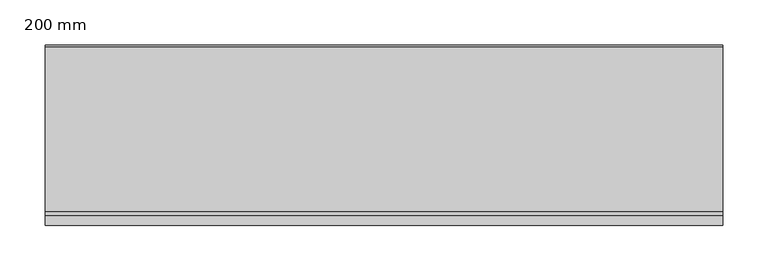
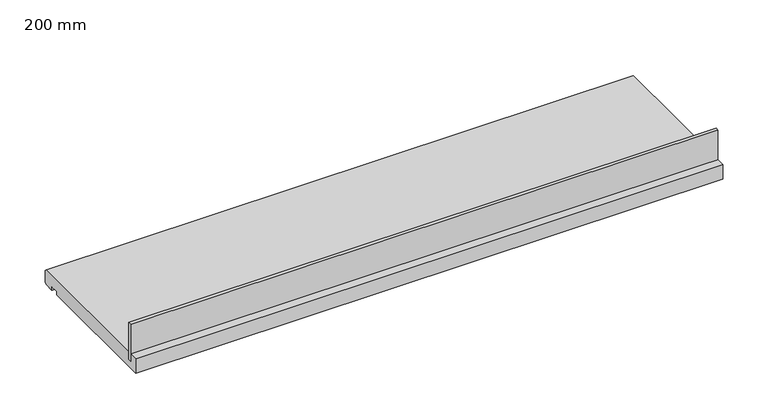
"""IFC4 building model written with IfcOpenShell, lengths in millimetres: proxy geometry, 400_35_NS_raamdorpel_kunststof_klik : 200 mm."""

from ifc_helpers import new_model, si_unit, frame, origin, place, context, project, spatial, polyline, outline, extrude, source, transform, mapped, element, save


def proxy_200_mm_34eb9fa0(model_context):
    return source(origin(), model_context, "Body", "SweptSolid", [
        extrude(outline(polyline([(-375.0, 11.0), (-375.0, 15.0), (375.0, 15.0), (375.0, 11.0), (-375.0, 11.0)])), frame((0.0, 0.0, 10.0), z_axis=(0.0, 0.0, 1.0), x_axis=(1.0, 0.0, 0.0)), (0.0, 0.0, 1.0), 50.0),
        extrude(outline(polyline([(15.0, 20.0), (198.0, 20.0), (200.0, 18.0), (200.0, 2.0), (198.0, 0.0), (185.0, 0.0), (185.0, 5.0), (175.0, 5.0), (175.0, 0.0), (0.0, 0.0), (0.0, 20.0), (11.0, 20.0), (11.0, 10.0), (15.0, 10.0), (15.0, 20.0)])), frame((-375.0, 0.0, 0.0), z_axis=(1.0, 0.0, 0.0), x_axis=(0.0, 1.0, 0.0)), (0.0, 0.0, 1.0), 750.0),
    ])


if __name__ == "__main__":
    model = new_model("IFC4")
    model_context = context("Model", 3, world=origin())
    ifc_project = project(units=[si_unit("LENGTHUNIT", "METRE", prefix="MILLI")], contexts=[model_context])
    site = spatial("IfcSite", under=ifc_project)
    building = spatial("IfcBuilding", under=site)
    placement = place(None, origin())
    proxy_200_mm_shape = proxy_200_mm_34eb9fa0(model_context)
    element("IfcBuildingElementProxy", 1, Name="400_35_NS_raamdorpel_kunststof_klik : 200 mm", ObjectType="400_35_NS_raamdorpel_kunststof_klik : 200 mm", at=placement, inside=building, context=model_context, shape_type="MappedRepresentation", body=[
        mapped(proxy_200_mm_shape, transform((0.0, 0.0, 0.0), x_axis=(1.0, 0.0, 0.0), y_axis=(0.0, 1.0, 0.0), z_axis=(0.0, 0.0, 1.0))),
    ])
    save(model, "model.ifc")
